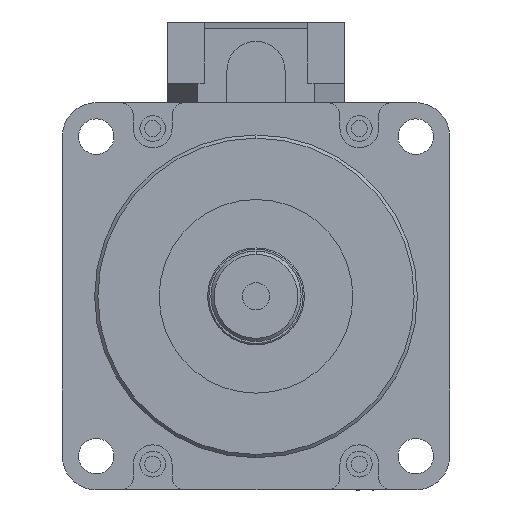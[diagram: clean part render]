
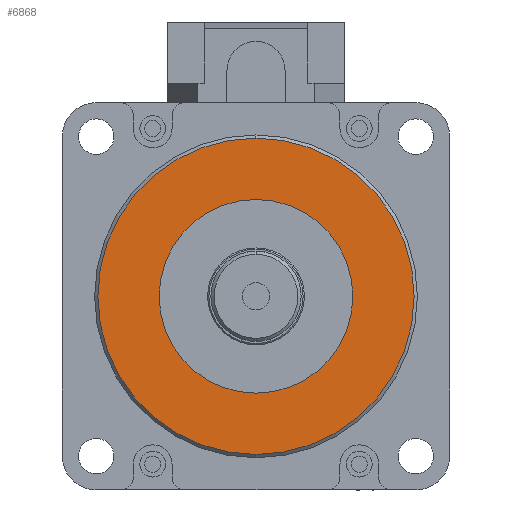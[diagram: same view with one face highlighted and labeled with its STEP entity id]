
A CAD part, left-side view. The second image highlights one B-rep face of the part: STEP entity #6868.
In plain terms, the highlighted planar face has unit normal (-1, 0, 0).
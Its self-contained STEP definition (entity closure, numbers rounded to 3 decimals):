
#71 = CARTESIAN_POINT ( 'NONE',  ( 27., 0., 0. ) ) ;
#222 = CARTESIAN_POINT ( 'NONE',  ( 27., 0., 0. ) ) ;
#507 = ORIENTED_EDGE ( 'NONE', *, *, #5000, .T. ) ;
#666 = AXIS2_PLACEMENT_3D ( 'NONE', #7756, #3118, #2391 ) ;
#1046 = DIRECTION ( 'NONE',  ( 0., 0., 1. ) ) ;
#1057 = VERTEX_POINT ( 'NONE', #2321 ) ;
#1110 = ORIENTED_EDGE ( 'NONE', *, *, #7713, .F. ) ;
#1718 = VERTEX_POINT ( 'NONE', #4623 ) ;
#1775 = CARTESIAN_POINT ( 'NONE',  ( 27., 0., -24.5 ) ) ;
#1820 = DIRECTION ( 'NONE',  ( 0., 0., 1. ) ) ;
#2007 = CIRCLE ( 'NONE', #4846, 15. ) ;
#2321 = CARTESIAN_POINT ( 'NONE',  ( 27., 0., 24.5 ) ) ;
#2391 = DIRECTION ( 'NONE',  ( 0., 0., 1. ) ) ;
#2485 = DIRECTION ( 'NONE',  ( 0., 0., 1. ) ) ;
#2592 = VERTEX_POINT ( 'NONE', #4509 ) ;
#2751 = CIRCLE ( 'NONE', #666, 24.5 ) ;
#2761 = ORIENTED_EDGE ( 'NONE', *, *, #6166, .T. ) ;
#3118 = DIRECTION ( 'NONE',  ( -1., 0., 0. ) ) ;
#3244 = DIRECTION ( 'NONE',  ( -1., 0., 0. ) ) ;
#3338 = FACE_BOUND ( 'NONE', #5267, .T. ) ;
#3386 = CARTESIAN_POINT ( 'NONE',  ( 27., 0., 0. ) ) ;
#3408 = DIRECTION ( 'NONE',  ( -1., 0., 0. ) ) ;
#3629 = EDGE_LOOP ( 'NONE', ( #2761, #507 ) ) ;
#3685 = AXIS2_PLACEMENT_3D ( 'NONE', #3386, #7159, #1820 ) ;
#3906 = CARTESIAN_POINT ( 'NONE',  ( 27., 0., 0. ) ) ;
#4054 = FACE_OUTER_BOUND ( 'NONE', #3629, .T. ) ;
#4509 = CARTESIAN_POINT ( 'NONE',  ( 27., 0., -15. ) ) ;
#4520 = AXIS2_PLACEMENT_3D ( 'NONE', #3906, #3408, #1046 ) ;
#4623 = CARTESIAN_POINT ( 'NONE',  ( 27., 0., 15. ) ) ;
#4760 = DIRECTION ( 'NONE',  ( 0., 0., 1. ) ) ;
#4846 = AXIS2_PLACEMENT_3D ( 'NONE', #71, #3244, #4760 ) ;
#4955 = VERTEX_POINT ( 'NONE', #1775 ) ;
#5000 = EDGE_CURVE ( 'NONE', #1057, #4955, #7243, .T. ) ;
#5267 = EDGE_LOOP ( 'NONE', ( #8985, #1110 ) ) ;
#5298 = AXIS2_PLACEMENT_3D ( 'NONE', #222, #6352, #2485 ) ;
#6166 = EDGE_CURVE ( 'NONE', #4955, #1057, #2751, .T. ) ;
#6292 = EDGE_CURVE ( 'NONE', #1718, #2592, #9961, .T. ) ;
#6352 = DIRECTION ( 'NONE',  ( -1., 0., 0. ) ) ;
#6868 = ADVANCED_FACE ( 'NONE', ( #3338, #4054 ), #7721, .T. ) ;
#7159 = DIRECTION ( 'NONE',  ( -1., 0., 0. ) ) ;
#7243 = CIRCLE ( 'NONE', #3685, 24.5 ) ;
#7713 = EDGE_CURVE ( 'NONE', #2592, #1718, #2007, .T. ) ;
#7721 = PLANE ( 'NONE',  #4520 ) ;
#7756 = CARTESIAN_POINT ( 'NONE',  ( 27., 0., 0. ) ) ;
#8985 = ORIENTED_EDGE ( 'NONE', *, *, #6292, .F. ) ;
#9961 = CIRCLE ( 'NONE', #5298, 15. ) ;
